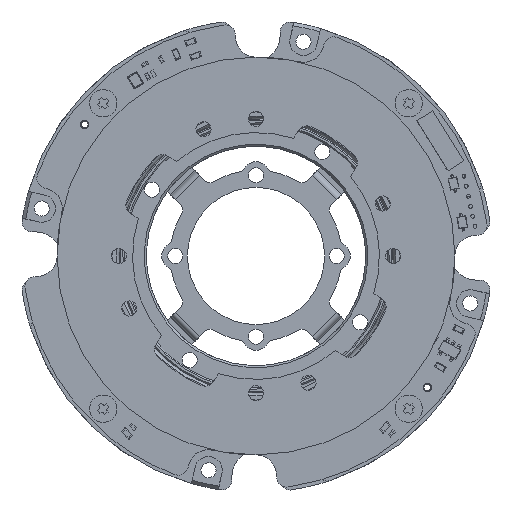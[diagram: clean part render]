
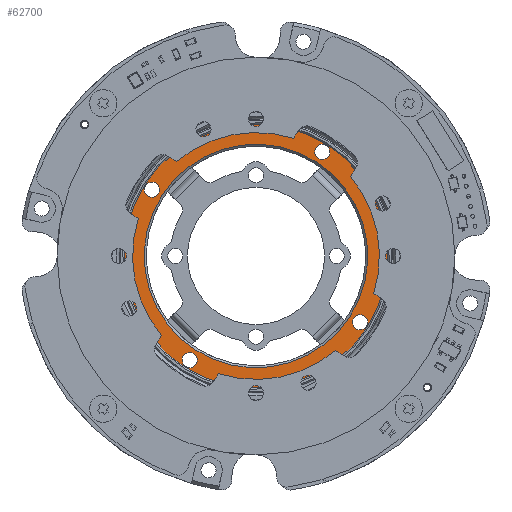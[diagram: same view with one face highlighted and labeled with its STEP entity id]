
A CAD part, front view. The second image highlights one B-rep face of the part: STEP entity #62700.
In plain terms, the highlighted planar face has unit normal (0, -1, 0).
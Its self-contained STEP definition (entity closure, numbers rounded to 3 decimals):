
#55539=PLANE('',#176465);
#62700=ADVANCED_FACE('',(#74605,#74606,#74607,#74608,#74609,#74610),#55539,
 .T.);
#74605=FACE_BOUND('',#75563,.T.);
#74606=FACE_BOUND('',#75564,.T.);
#74607=FACE_BOUND('',#75565,.T.);
#74608=FACE_BOUND('',#75566,.T.);
#74609=FACE_BOUND('',#75567,.T.);
#74610=FACE_BOUND('',#75568,.T.);
#75563=EDGE_LOOP('',(#86275));
#75564=EDGE_LOOP('',(#86276));
#75565=EDGE_LOOP('',(#86277));
#75566=EDGE_LOOP('',(#86278));
#75567=EDGE_LOOP('',(#86279));
#75568=EDGE_LOOP('',(#86280));
#86275=ORIENTED_EDGE('',*,*,#148367,.F.);
#86276=ORIENTED_EDGE('',*,*,#148400,.F.);
#86277=ORIENTED_EDGE('',*,*,#148433,.F.);
#86278=ORIENTED_EDGE('',*,*,#148450,.F.);
#86279=ORIENTED_EDGE('',*,*,#148443,.T.);
#86280=ORIENTED_EDGE('',*,*,#148451,.F.);
#133051=VERTEX_POINT('',#244202);
#133076=VERTEX_POINT('',#244291);
#133101=VERTEX_POINT('',#244380);
#133114=VERTEX_POINT('',#244414);
#133117=VERTEX_POINT('',#244435);
#133118=VERTEX_POINT('',#244437);
#148367=EDGE_CURVE('',#133051,#133051,#171803,.T.);
#148400=EDGE_CURVE('',#133076,#133076,#171818,.T.);
#148433=EDGE_CURVE('',#133101,#133101,#171833,.T.);
#148443=EDGE_CURVE('',#133114,#133114,#171843,.T.);
#148450=EDGE_CURVE('',#133117,#133117,#171846,.T.);
#148451=EDGE_CURVE('',#133118,#133118,#171847,.T.);
#171803=CIRCLE('',#176378,1.1);
#171818=CIRCLE('',#176406,1.1);
#171833=CIRCLE('',#176434,1.1);
#171843=CIRCLE('',#176455,16.3);
#171846=CIRCLE('',#176463,19.25);
#171847=CIRCLE('',#176464,1.1);
#176378=AXIS2_PLACEMENT_3D('',#244201,#190938,#190939);
#176406=AXIS2_PLACEMENT_3D('',#244290,#191006,#191007);
#176434=AXIS2_PLACEMENT_3D('',#244379,#191074,#191075);
#176455=AXIS2_PLACEMENT_3D('',#244413,#191116,#191117);
#176463=AXIS2_PLACEMENT_3D('',#244434,#191134,#191135);
#176464=AXIS2_PLACEMENT_3D('',#244436,#191136,#191137);
#176465=AXIS2_PLACEMENT_3D('',#244438,#191138,#191139);
#190938=DIRECTION('',(0.,-1.,0.));
#190939=DIRECTION('',(0.976,0.,0.216));
#191006=DIRECTION('',(0.,-1.,0.));
#191007=DIRECTION('',(-0.216,0.,0.976));
#191074=DIRECTION('',(0.,-1.,0.));
#191075=DIRECTION('',(-0.976,0.,-0.216));
#191116=DIRECTION('',(0.,1.,0.));
#191117=DIRECTION('',(0.301,0.,-0.954));
#191134=DIRECTION('',(0.,1.,0.));
#191135=DIRECTION('',(0.301,0.,-0.954));
#191136=DIRECTION('',(0.,-1.,0.));
#191137=DIRECTION('',(0.216,0.,-0.976));
#191138=DIRECTION('',(0.,-1.,0.));
#191139=DIRECTION('',(-0.301,0.,0.954));
#244201=CARTESIAN_POINT('',(15.181,0.5,-109.671));
#244202=CARTESIAN_POINT('',(16.255,0.5,-109.433));
#244290=CARTESIAN_POINT('',(9.671,0.5,-84.819));
#244291=CARTESIAN_POINT('',(9.433,0.5,-83.745));
#244379=CARTESIAN_POINT('',(-15.181,0.5,-90.329));
#244380=CARTESIAN_POINT('',(-16.255,0.5,-90.567));
#244413=CARTESIAN_POINT('',(0.,0.5,-100.));
#244414=CARTESIAN_POINT('',(4.902,0.5,-115.546));
#244434=CARTESIAN_POINT('',(0.,0.5,-100.));
#244435=CARTESIAN_POINT('',(5.789,0.5,-118.359));
#244436=CARTESIAN_POINT('',(-9.671,0.5,-115.181));
#244437=CARTESIAN_POINT('',(-9.433,0.5,-116.255));
#244438=CARTESIAN_POINT('',(0.,0.5,-100.));
